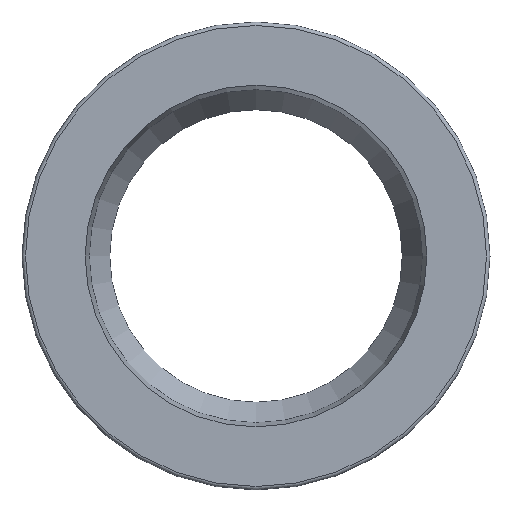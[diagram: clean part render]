
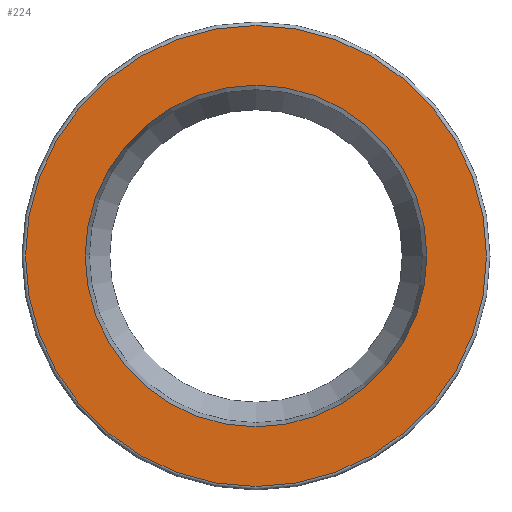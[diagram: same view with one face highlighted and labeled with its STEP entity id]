
A CAD part, left-side view. The second image highlights one B-rep face of the part: STEP entity #224.
In plain terms, the highlighted planar face has unit normal (-1, 0, 0).
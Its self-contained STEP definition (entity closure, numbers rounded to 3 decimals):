
#20=FACE_BOUND('',#66,.T.);
#24=PLANE('',#274);
#49=FACE_OUTER_BOUND('',#65,.T.);
#65=EDGE_LOOP('',(#176));
#66=EDGE_LOOP('',(#177));
#87=CIRCLE('',#270,19.7);
#90=CIRCLE('',#275,14.6);
#109=VERTEX_POINT('',#404);
#112=VERTEX_POINT('',#414);
#132=EDGE_CURVE('',#109,#109,#87,.T.);
#136=EDGE_CURVE('',#112,#112,#90,.T.);
#176=ORIENTED_EDGE('',*,*,#132,.F.);
#177=ORIENTED_EDGE('',*,*,#136,.T.);
#224=ADVANCED_FACE('',(#49,#20),#24,.T.);
#270=AXIS2_PLACEMENT_3D('',#406,#325,#326);
#274=AXIS2_PLACEMENT_3D('',#413,#334,#335);
#275=AXIS2_PLACEMENT_3D('',#415,#336,#337);
#325=DIRECTION('center_axis',(1.,0.,0.));
#326=DIRECTION('ref_axis',(0.,-1.,0.));
#334=DIRECTION('center_axis',(-1.,0.,0.));
#335=DIRECTION('ref_axis',(0.,0.,1.));
#336=DIRECTION('center_axis',(1.,0.,0.));
#337=DIRECTION('ref_axis',(0.,1.,0.));
#404=CARTESIAN_POINT('',(0.,0.,19.7));
#406=CARTESIAN_POINT('Origin',(0.,0.,
0.));
#413=CARTESIAN_POINT('Origin',(0.,17.3,0.));
#414=CARTESIAN_POINT('',(0.,-14.6,0.));
#415=CARTESIAN_POINT('Origin',(0.,0.,
0.));
